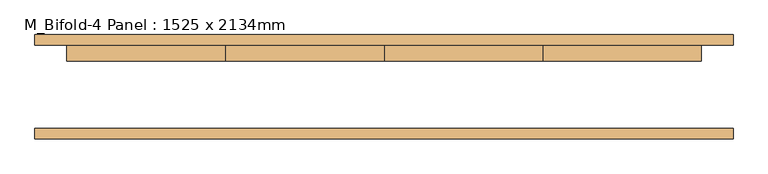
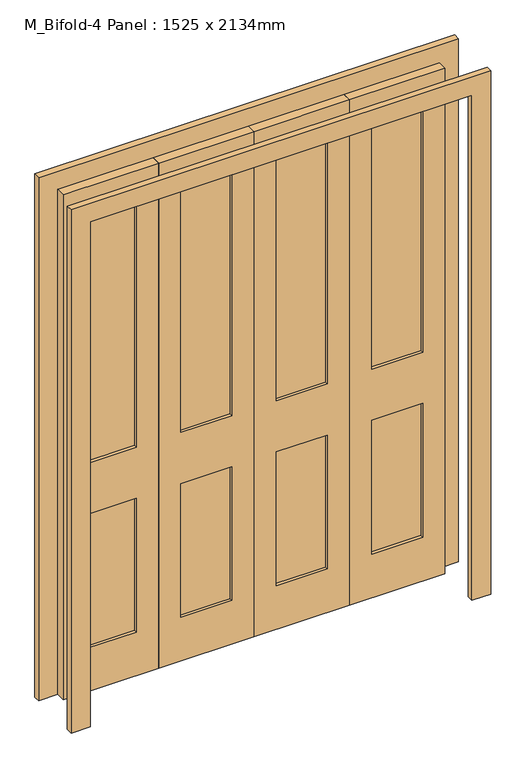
"""IFC4 building model written with IfcOpenShell, lengths in millimetres: door geometry, M_Bifold-4 Panel : 1525 x 2134mm."""

from ifc_helpers import new_model, si_unit, frame, origin, place, context, project, spatial, polyline, outline, extrude, source, transform, mapped, element, save


def m_bifold_4_panel_1525_x_2134mm_3085d777(model_context):
    return source(origin(), model_context, "Body", "SweptSolid", [
        extrude(outline(polyline([(470.15, 87.3), (673.6, 87.3), (673.6, 74.6), (470.15, 74.6), (470.15, 87.3)])), frame((0.0, 0.0, 965.2), z_axis=(0.0, 0.0, 1.0), x_axis=(1.0, 0.0, 0.0)), (0.0, 0.0, 1.0), 1086.25),
        extrude(outline(polyline([(470.15, 87.3), (673.6, 87.3), (673.6, 74.6), (470.15, 74.6), (470.15, 87.3)])), frame((0.0, 0.0, 184.15), z_axis=(0.0, 0.0, 1.0), x_axis=(1.0, 0.0, 0.0)), (0.0, 0.0, 1.0), 565.15),
        extrude(outline(polyline([(88.9, 87.3), (292.35, 87.3), (292.35, 74.6), (88.9, 74.6), (88.9, 87.3)])), frame((0.0, 0.0, 965.2), z_axis=(0.0, 0.0, 1.0), x_axis=(1.0, 0.0, 0.0)), (0.0, 0.0, 1.0), 1086.25),
        extrude(outline(polyline([(88.9, 87.3), (292.35, 87.3), (292.35, 74.6), (88.9, 74.6), (88.9, 87.3)])), frame((0.0, 0.0, 184.15), z_axis=(0.0, 0.0, 1.0), x_axis=(1.0, 0.0, 0.0)), (0.0, 0.0, 1.0), 565.15),
        extrude(outline(polyline([(-292.35, 87.3), (-88.9, 87.3), (-88.9, 74.6), (-292.35, 74.6), (-292.35, 87.3)])), frame((0.0, 0.0, 184.15), z_axis=(0.0, 0.0, 1.0), x_axis=(1.0, 0.0, 0.0)), (0.0, 0.0, 1.0), 565.15),
        extrude(outline(polyline([(-292.35, 87.3), (-88.9, 87.3), (-88.9, 74.6), (-292.35, 74.6), (-292.35, 87.3)])), frame((0.0, 0.0, 965.2), z_axis=(0.0, 0.0, 1.0), x_axis=(1.0, 0.0, 0.0)), (0.0, 0.0, 1.0), 1086.25),
        extrude(outline(polyline([(-673.6, 87.3), (-470.15, 87.3), (-470.15, 74.6), (-673.6, 74.6), (-673.6, 87.3)])), frame((0.0, 0.0, 965.2), z_axis=(0.0, 0.0, 1.0), x_axis=(1.0, 0.0, 0.0)), (0.0, 0.0, 1.0), 1086.25),
        extrude(outline(polyline([(-673.6, 87.3), (-470.15, 87.3), (-470.15, 74.6), (-673.6, 74.6), (-673.6, 87.3)])), frame((0.0, 0.0, 184.15), z_axis=(0.0, 0.0, 1.0), x_axis=(1.0, 0.0, 0.0)), (0.0, 0.0, 1.0), 565.15),
        extrude(outline(polyline([(0.0, 838.5), (2210.0, 838.5), (2210.0, -838.5), (0.0, -838.5), (0.0, -762.5), (2134.0, -762.5), (2134.0, 762.5), (0.0, 762.5), (0.0, 838.5)])), frame((0.0, -125.4, 0.0), z_axis=(0.0, 1.0, 0.0), x_axis=(0.0, 0.0, 1.0)), (0.0, 0.0, 1.0), 25.4),
        extrude(outline(polyline([(0.0, 838.5), (2210.0, 838.5), (2210.0, -838.5), (0.0, -838.5), (0.0, -762.5), (2134.0, -762.5), (2134.0, 762.5), (0.0, 762.5), (0.0, 838.5)])), frame((0.0, 100.0, 0.0), z_axis=(0.0, 1.0, 0.0), x_axis=(0.0, 0.0, 1.0)), (0.0, 0.0, 1.0), 25.4),
        extrude(outline(polyline([(0.0, -762.5), (0.0, -381.25), (2134.0, -381.25), (2134.0, -762.5), (0.0, -762.5)]), holes=[polyline([(2051.45, -673.6), (2051.45, -470.15), (965.2, -470.15), (965.2, -673.6), (2051.45, -673.6)]), polyline([(749.3, -673.6), (749.3, -470.15), (184.15, -470.15), (184.15, -673.6), (749.3, -673.6)])]), frame((0.0, 61.9, 0.0), z_axis=(0.0, 1.0, 0.0), x_axis=(0.0, 0.0, 1.0)), (0.0, 0.0, 1.0), 38.1),
        extrude(outline(polyline([(0.0, -381.25), (0.0, 0.0), (2134.0, 0.0), (2134.0, -381.25), (0.0, -381.25)]), holes=[polyline([(2051.45, -292.35), (2051.45, -88.9), (965.2, -88.9), (965.2, -292.35), (2051.45, -292.35)]), polyline([(749.3, -292.35), (749.3, -88.9), (184.15, -88.9), (184.15, -292.35), (749.3, -292.35)])]), frame((0.0, 61.9, 0.0), z_axis=(0.0, 1.0, 0.0), x_axis=(0.0, 0.0, 1.0)), (0.0, 0.0, 1.0), 38.1),
        extrude(outline(polyline([(0.0, 0.0), (0.0, 381.25), (2134.0, 381.25), (2134.0, 0.0), (0.0, 0.0)]), holes=[polyline([(2051.45, 88.9), (2051.45, 292.35), (965.2, 292.35), (965.2, 88.9), (2051.45, 88.9)]), polyline([(749.3, 88.9), (749.3, 292.35), (184.15, 292.35), (184.15, 88.9), (749.3, 88.9)])]), frame((0.0, 61.9, 0.0), z_axis=(0.0, 1.0, 0.0), x_axis=(0.0, 0.0, 1.0)), (0.0, 0.0, 1.0), 38.1),
        extrude(outline(polyline([(0.0, 381.25), (0.0, 762.5), (2134.0, 762.5), (2134.0, 381.25), (0.0, 381.25)]), holes=[polyline([(2051.45, 470.15), (2051.45, 673.6), (965.2, 673.6), (965.2, 470.15), (2051.45, 470.15)]), polyline([(749.3, 470.15), (749.3, 673.6), (184.15, 673.6), (184.15, 470.15), (749.3, 470.15)])]), frame((0.0, 61.9, 0.0), z_axis=(0.0, 1.0, 0.0), x_axis=(0.0, 0.0, 1.0)), (0.0, 0.0, 1.0), 38.1),
    ])


if __name__ == "__main__":
    model = new_model("IFC4")
    model_context = context("Model", 3, world=origin())
    ifc_project = project(units=[si_unit("LENGTHUNIT", "METRE", prefix="MILLI")], contexts=[model_context])
    site = spatial("IfcSite", under=ifc_project)
    building = spatial("IfcBuilding", under=site)
    placement = place(None, origin())
    m_bifold_4_panel_1525_x_2134mm_shape = m_bifold_4_panel_1525_x_2134mm_3085d777(model_context)
    element("IfcDoor", 1, ObjectType="M_Bifold-4 Panel : 1525 x 2134mm", at=placement, inside=building, context=model_context, shape_type="MappedRepresentation", body=[
        mapped(m_bifold_4_panel_1525_x_2134mm_shape, transform((0.0, 0.0, 0.0), x_axis=(1.0, 0.0, 0.0), y_axis=(0.0, 1.0, 0.0), z_axis=(0.0, 0.0, 1.0))),
    ])
    save(model, "model.ifc")
